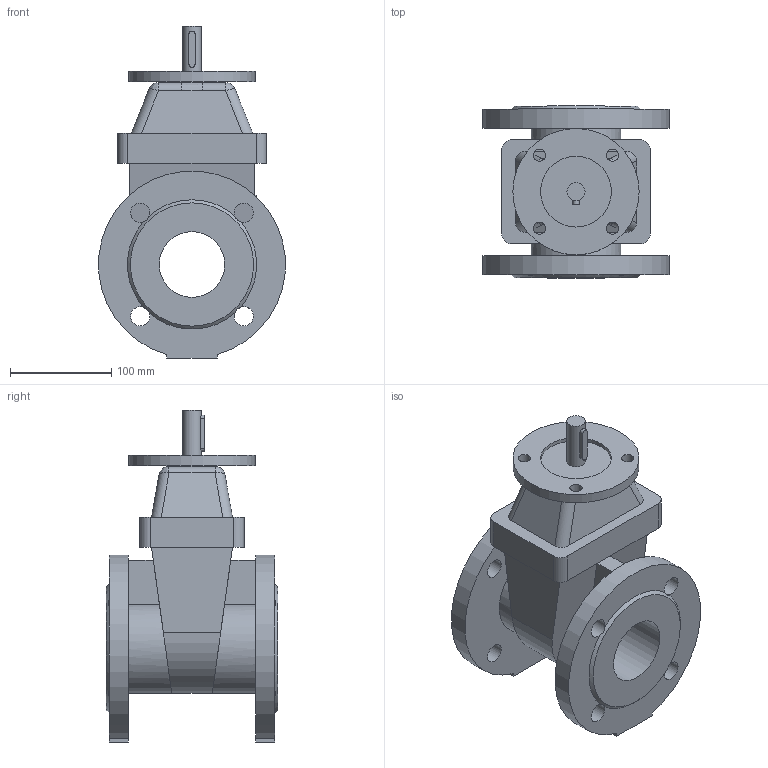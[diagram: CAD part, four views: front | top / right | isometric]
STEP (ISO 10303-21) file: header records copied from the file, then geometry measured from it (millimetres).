
FILE_DESCRIPTION(('STEP AP203'), '1');
FILE_NAME('Çàäâèæêà 47GVA DN65 PN10_PN16 áåç èñïîëíèò. ìåõ.', '', ('UNSPECIFIED'), ('UNSPECIFIED'), 'ASCON STEP Converter 1.6', 'ASCON Math Kernel', '');
FILE_SCHEMA(('CONFIG_CONTROL_DESIGN'));
Length unit declared in the file: millimetre
Bounding box: 184.4 x 170 x 328.5 mm (x, y, z)
Volume: 2912784.7 mm3; surface area: 290073.4 mm2
Topology: 1 solids, 1 shells, 107 faces, 287 edges, 182 vertices
Faces by surface type: plane 52, cylinder 46, bspline 7, cone 2
Full cylindrical faces by diameter (mm): 12 x4, 18 x1, 19 x8, 50 x1, 65 x1, 70 x1, 125 x1
Entity records: 5451 total; most frequent: CARTESIAN_POINT 1924, DIRECTION 544, ORIENTED_EDGE 524, EDGE_CURVE 262, AXIS2_PLACEMENT_3D 206, VERTEX_POINT 181, EDGE_LOOP 157, LINE 132
